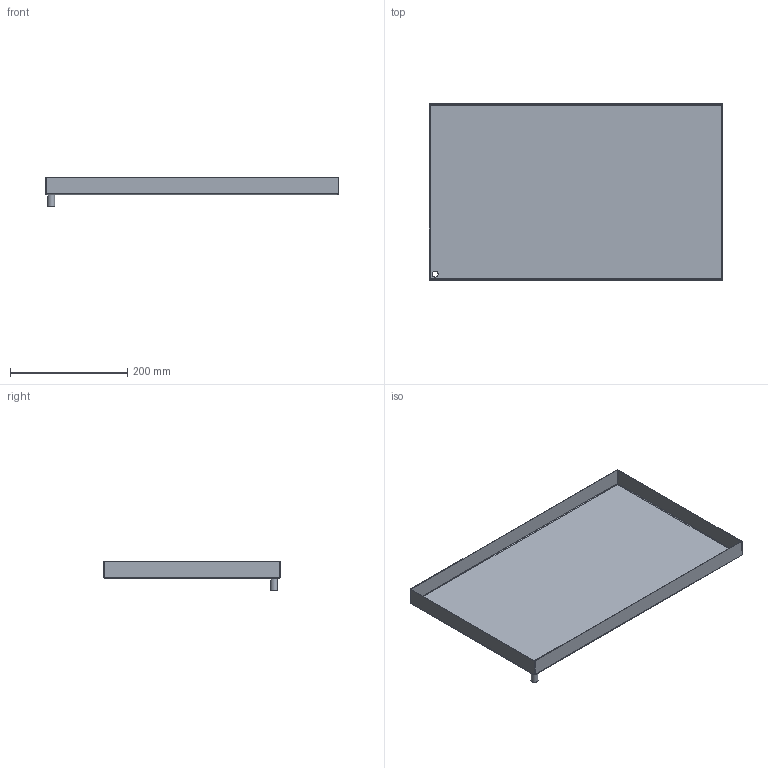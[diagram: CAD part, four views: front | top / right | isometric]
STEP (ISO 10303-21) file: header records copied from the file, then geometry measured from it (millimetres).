
FILE_DESCRIPTION(/* description */ (''),/* implementation_level */ '2;1');
FILE_NAME(/* name */ '',/* time_stamp */ '2023-04-04T17:48:28+09:00',/* author */ (''),/* organization */ (''),/* preprocessor_version */ 'ST-DEVELOPER v19.2',/* originating_system */ 'Autodesk Translation Framework v11.17.0.187',/* authorisation */ '');
FILE_SCHEMA (('AUTOMOTIVE_DESIGN { 1 0 10303 214 3 1 1 }'));
Length unit declared in the file: millimetre
Products named in the file (1): 水出し用パン＿アイディア
Bounding box: 500 x 300 x 50 mm (x, y, z)
Volume: 195736.8 mm3; surface area: 393347.9 mm2
Topology: 1 solids, 1 shells, 45 faces, 94 edges, 52 vertices
Faces by surface type: plane 35, cylinder 10
Full cylindrical faces by diameter (mm): 10 x1, 12 x1
Entity records: 1189 total; most frequent: DIRECTION 206, CARTESIAN_POINT 192, ORIENTED_EDGE 188, EDGE_CURVE 94, LINE 74, VECTOR 74, AXIS2_PLACEMENT_3D 66, VERTEX_POINT 52
